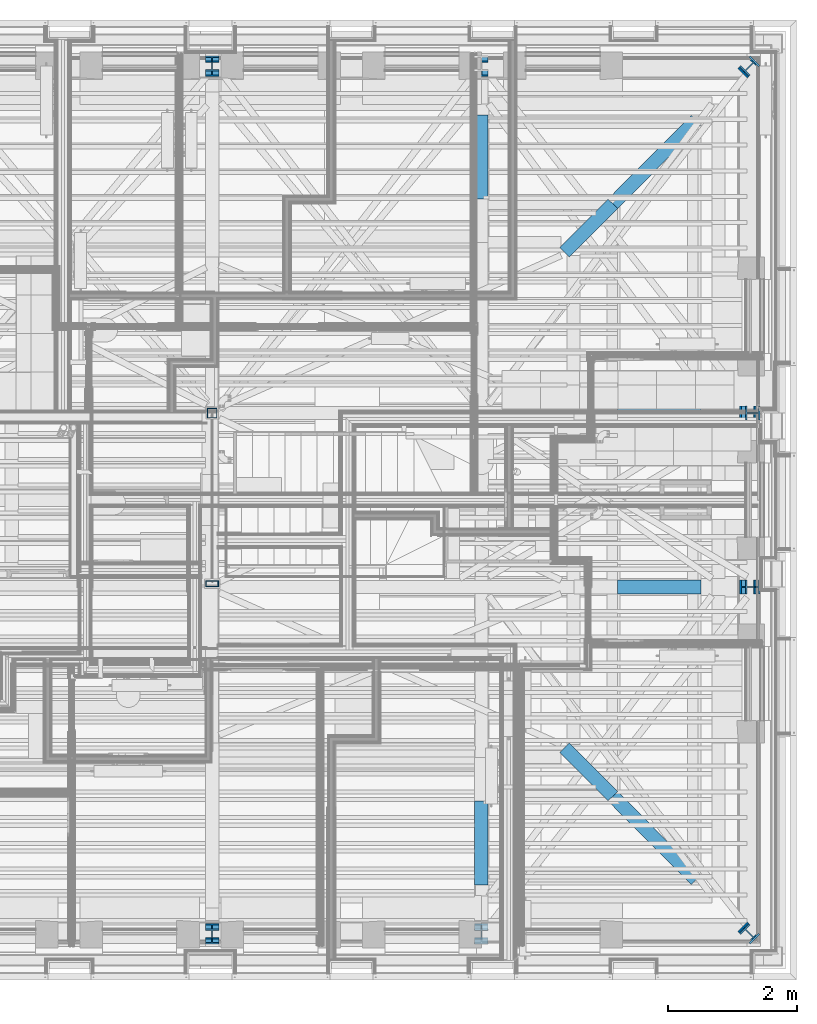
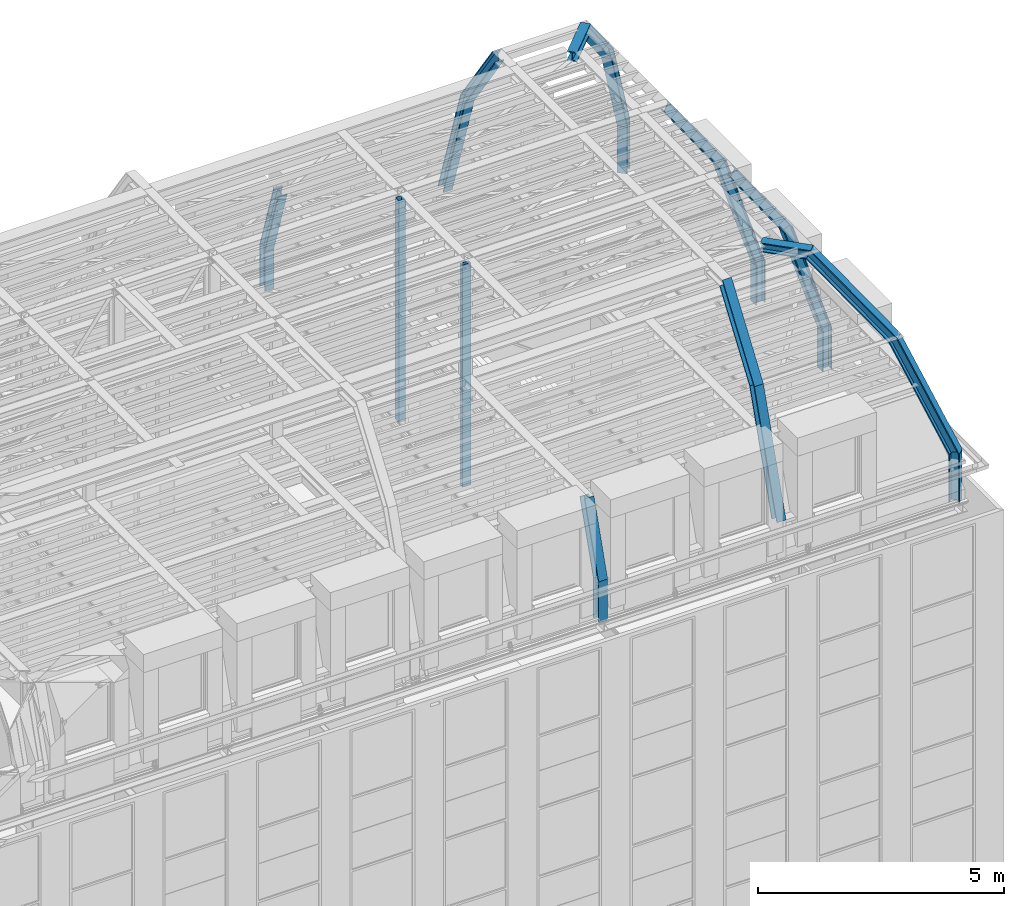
# One storey, part 2 of 183: 24 columns.
"""IFC2X3 building model written with IfcOpenShell, lengths in metres."""

from ifc_helpers import new_model, entity, si_unit, converted_unit, derived_unit, money_unit, direction, frame, origin_with_axes, place, context, subcontext, project, spatial, polyline, outline, extrude, clip, halfspace, material, type_object, element, save


model = new_model("IFC2X3")

# Units and contexts
model_context = context("Model", 3, precision=1e-05, world=origin_with_axes(), true_north=direction((0.0, 1.0)))
body_context = subcontext(model_context, "Body", "Model", "MODEL_VIEW", scale=1.0)
ifc_project = project(units=[si_unit("LENGTHUNIT", "METRE"), si_unit("AREAUNIT", "SQUARE_METRE"), si_unit("VOLUMEUNIT", "CUBIC_METRE"), si_unit("ABSORBEDDOSEUNIT", "GRAY"), si_unit("AMOUNTOFSUBSTANCEUNIT", "MOLE"), si_unit("DOSEEQUIVALENTUNIT", "SIEVERT"), si_unit("ELECTRICCAPACITANCEUNIT", "FARAD"), si_unit("ELECTRICCHARGEUNIT", "COULOMB"), si_unit("ELECTRICCONDUCTANCEUNIT", "SIEMENS"), si_unit("ELECTRICCURRENTUNIT", "AMPERE"), si_unit("ELECTRICRESISTANCEUNIT", "OHM"), si_unit("ELECTRICVOLTAGEUNIT", "VOLT"), si_unit("ENERGYUNIT", "JOULE"), si_unit("FORCEUNIT", "NEWTON"), si_unit("FREQUENCYUNIT", "HERTZ"), si_unit("ILLUMINANCEUNIT", "LUX"), si_unit("INDUCTANCEUNIT", "HENRY"), si_unit("LUMINOUSFLUXUNIT", "LUMEN"), si_unit("LUMINOUSINTENSITYUNIT", "CANDELA"), si_unit("MAGNETICFLUXDENSITYUNIT", "TESLA"), si_unit("MAGNETICFLUXUNIT", "WEBER"), si_unit("MASSUNIT", "GRAM"), converted_unit("PLANEANGLEUNIT", "degree", entity("IfcReal", 0.0174532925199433), si_unit("PLANEANGLEUNIT", "RADIAN"), dimensions=[0, 0, 0, 0, 0, 0, 0]), si_unit("POWERUNIT", "WATT"), si_unit("PRESSUREUNIT", "PASCAL"), si_unit("RADIOACTIVITYUNIT", "BECQUEREL"), si_unit("SOLIDANGLEUNIT", "STERADIAN"), si_unit("THERMODYNAMICTEMPERATUREUNIT", "KELVIN"), si_unit("TIMEUNIT", "SECOND"), derived_unit("ACCELERATIONUNIT", [(si_unit("LENGTHUNIT", "METRE"), 1), (si_unit("TIMEUNIT", "SECOND"), -2)]), derived_unit("ANGULARVELOCITYUNIT", [(converted_unit("PLANEANGLEUNIT", "degree", entity("IfcReal", 0.0174532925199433), si_unit("PLANEANGLEUNIT", "RADIAN"), dimensions=[0, 0, 0, 0, 0, 0, 0]), 1), (si_unit("TIMEUNIT", "SECOND"), -1)]), derived_unit("CURVATUREUNIT", [(converted_unit("PLANEANGLEUNIT", "degree", entity("IfcReal", 0.0174532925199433), si_unit("PLANEANGLEUNIT", "RADIAN"), dimensions=[0, 0, 0, 0, 0, 0, 0]), 1), (si_unit("LENGTHUNIT", "METRE"), -1)]), derived_unit("DYNAMICVISCOSITYUNIT", [(si_unit("PRESSUREUNIT", "PASCAL"), 1), (si_unit("TIMEUNIT", "SECOND"), 1)]), derived_unit("HEATFLUXDENSITYUNIT", [(si_unit("POWERUNIT", "WATT"), 1), (si_unit("LENGTHUNIT", "METRE"), -2)]), derived_unit("HEATINGVALUEUNIT", [(si_unit("ENERGYUNIT", "JOULE"), 1), (si_unit("MASSUNIT", "GRAM"), -1)]), derived_unit("INTEGERCOUNTRATEUNIT", [(si_unit("TIMEUNIT", "SECOND"), -1)]), derived_unit("IONCONCENTRATIONUNIT", [(si_unit("MASSUNIT", "GRAM"), 1), (si_unit("VOLUMEUNIT", "CUBIC_METRE"), -1)]), derived_unit("ISOTHERMALMOISTURECAPACITYUNIT", [(si_unit("VOLUMEUNIT", "CUBIC_METRE"), 1), (si_unit("MASSUNIT", "GRAM"), -1)]), derived_unit("KINEMATICVISCOSITYUNIT", [(si_unit("AREAUNIT", "SQUARE_METRE"), 1), (si_unit("TIMEUNIT", "SECOND"), -1)]), derived_unit("LINEARFORCEUNIT", [(si_unit("FORCEUNIT", "NEWTON"), 1), (si_unit("LENGTHUNIT", "METRE"), -1)]), derived_unit("LINEARMOMENTUNIT", [(si_unit("FORCEUNIT", "NEWTON"), 1), (si_unit("LENGTHUNIT", "METRE"), -1)]), derived_unit("LINEARSTIFFNESSUNIT", [(si_unit("FORCEUNIT", "NEWTON"), 1), (si_unit("LENGTHUNIT", "METRE"), -1)]), derived_unit("LINEARVELOCITYUNIT", [(si_unit("LENGTHUNIT", "METRE"), 1), (si_unit("TIMEUNIT", "SECOND"), -1)]), derived_unit("LUMINOUSINTENSITYDISTRIBUTIONUNIT", [(si_unit("LUMINOUSINTENSITYUNIT", "CANDELA"), 1), (si_unit("LUMINOUSFLUXUNIT", "LUMEN"), -1)]), derived_unit("MASSDENSITYUNIT", [(si_unit("MASSUNIT", "GRAM"), 1), (si_unit("VOLUMEUNIT", "CUBIC_METRE"), -1)]), derived_unit("MASSFLOWRATEUNIT", [(si_unit("MASSUNIT", "GRAM"), 1), (si_unit("TIMEUNIT", "SECOND"), -1)]), derived_unit("MASSPERLENGTHUNIT", [(si_unit("MASSUNIT", "GRAM"), 1), (si_unit("LENGTHUNIT", "METRE"), -1)]), derived_unit("MODULUSOFELASTICITYUNIT", [(si_unit("FORCEUNIT", "NEWTON"), 1), (si_unit("AREAUNIT", "SQUARE_METRE"), -1)]), derived_unit("MODULUSOFLINEARSUBGRADEREACTIONUNIT", [(si_unit("FORCEUNIT", "NEWTON"), 1), (si_unit("LENGTHUNIT", "METRE"), -2)]), derived_unit("MODULUSOFROTATIONALSUBGRADEREACTIONUNIT", [(si_unit("FORCEUNIT", "NEWTON"), 1), (si_unit("LENGTHUNIT", "METRE"), 1)]), derived_unit("MODULUSOFSUBGRADEREACTIONUNIT", [(si_unit("FORCEUNIT", "NEWTON"), 1), (si_unit("VOLUMEUNIT", "CUBIC_METRE"), -1)]), derived_unit("MOISTUREDIFFUSIVITYUNIT", [(si_unit("VOLUMEUNIT", "CUBIC_METRE"), 1), (si_unit("TIMEUNIT", "SECOND"), -1)]), derived_unit("MOLECULARWEIGHTUNIT", [(si_unit("MASSUNIT", "GRAM"), 1), (si_unit("AMOUNTOFSUBSTANCEUNIT", "MOLE"), -1)]), derived_unit("PLANARFORCEUNIT", [(si_unit("FORCEUNIT", "NEWTON"), 1), (si_unit("LENGTHUNIT", "METRE"), -2)]), derived_unit("ROTATIONALFREQUENCYUNIT", [(si_unit("TIMEUNIT", "SECOND"), -1)]), derived_unit("ROTATIONALMASSUNIT", [(si_unit("MASSUNIT", "GRAM"), 1), (si_unit("LENGTHUNIT", "METRE"), 2)]), derived_unit("ROTATIONALSTIFFNESSUNIT", [(si_unit("FORCEUNIT", "NEWTON"), 1), (si_unit("LENGTHUNIT", "METRE"), 1), (converted_unit("PLANEANGLEUNIT", "degree", entity("IfcReal", 0.0174532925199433), si_unit("PLANEANGLEUNIT", "RADIAN"), dimensions=[0, 0, 0, 0, 0, 0, 0]), -1)]), derived_unit("SECTIONAREAINTEGRALUNIT", [(si_unit("LENGTHUNIT", "METRE"), 5)]), derived_unit("SECTIONMODULUSUNIT", [(si_unit("LENGTHUNIT", "METRE"), 3)]), derived_unit("SHEARMODULUSUNIT", [(si_unit("FORCEUNIT", "NEWTON"), 1), (si_unit("AREAUNIT", "SQUARE_METRE"), -1)]), derived_unit("SOUNDPOWERUNIT", [(si_unit("ENERGYUNIT", "JOULE"), 1), (si_unit("TIMEUNIT", "SECOND"), -1)]), derived_unit("SPECIFICHEATCAPACITYUNIT", [(si_unit("FORCEUNIT", "NEWTON"), 1), (si_unit("MASSUNIT", "GRAM"), -1), (si_unit("THERMODYNAMICTEMPERATUREUNIT", "KELVIN"), -1)]), derived_unit("TEMPERATUREGRADIENTUNIT", [(si_unit("THERMODYNAMICTEMPERATUREUNIT", "KELVIN"), 1), (si_unit("LENGTHUNIT", "METRE"), -1)]), derived_unit("THERMALADMITTANCEUNIT", [(si_unit("POWERUNIT", "WATT"), 1), (si_unit("AREAUNIT", "SQUARE_METRE"), -1), (si_unit("THERMODYNAMICTEMPERATUREUNIT", "KELVIN"), -1)]), derived_unit("THERMALCONDUCTANCEUNIT", [(si_unit("POWERUNIT", "WATT"), 1), (si_unit("LENGTHUNIT", "METRE"), -1), (si_unit("THERMODYNAMICTEMPERATUREUNIT", "KELVIN"), -1)]), derived_unit("THERMALEXPANSIONCOEFFICIENTUNIT", [(si_unit("THERMODYNAMICTEMPERATUREUNIT", "KELVIN"), -1)]), derived_unit("THERMALRESISTANCEUNIT", [(si_unit("AREAUNIT", "SQUARE_METRE"), 1), (si_unit("POWERUNIT", "WATT"), -1)]), derived_unit("THERMALTRANSMITTANCEUNIT", [(si_unit("POWERUNIT", "WATT"), 1), (si_unit("AREAUNIT", "SQUARE_METRE"), -1), (si_unit("THERMODYNAMICTEMPERATUREUNIT", "KELVIN"), -1)]), derived_unit("TORQUEUNIT", [(si_unit("FORCEUNIT", "NEWTON"), 1), (si_unit("LENGTHUNIT", "METRE"), 1)]), derived_unit("VAPORPERMEABILITYUNIT", [(si_unit("MASSUNIT", "GRAM"), 1), (si_unit("TIMEUNIT", "SECOND"), -1)]), derived_unit("VOLUMETRICFLOWRATEUNIT", [(si_unit("VOLUMEUNIT", "CUBIC_METRE"), 1), (si_unit("TIMEUNIT", "SECOND"), -1)]), derived_unit("WARPINGCONSTANTUNIT", [(si_unit("LENGTHUNIT", "METRE"), 6)]), derived_unit("WARPINGMOMENTUNIT", [(si_unit("FORCEUNIT", "NEWTON"), 1), (si_unit("LENGTHUNIT", "METRE"), 2)]), money_unit("GBP")], contexts=[model_context])

# Site, building, storey
site_placement = place(None, origin_with_axes())
site = spatial("IfcSite", under=ifc_project, at=site_placement, Name="Site", CompositionType="ELEMENT")
building_placement = place(site_placement, origin_with_axes())
building = spatial("IfcBuilding", under=site, at=building_placement, Name="Building01", CompositionType="ELEMENT")
storey_placement = place(building_placement, frame((0.0, 0.0, 5.15), z_axis=(0.0, 0.0, 1.0), x_axis=(1.0, 0.0, 0.0)))
storey = spatial("IfcBuildingStorey", under=building, at=storey_placement, Name="1F", CompositionType="ELEMENT", Elevation=5.15)

# Columns
ifc_material = material(Name="A_BSUK_Columns_Steel")
column_type = type_object("IfcColumnType", Name="A-Columns-Steel", PredefinedType="COLUMN")
column_1_placement = place(storey_placement, frame((17.91, 8.8, 9.73), z_axis=(0.0, 0.0, 1.0), x_axis=(-1.0, 0.0, 0.0)))
element("IfcColumn", 1, at=column_1_placement, inside=storey, type_object=column_type, material=ifc_material, Name="SHS150a", ObjectType="A-Columns-Steel", context=body_context, shape_type="SweptSolid", body=[
    extrude(outline(polyline([(0.075, 0.075), (0.075, -0.075), (-0.075, -0.075), (-0.075, 0.075), (0.075, 0.075)]), holes=[polyline([(0.07, 0.07), (-0.07, 0.07), (-0.07, -0.07), (0.07, -0.07), (0.07, 0.07)])]), origin_with_axes(), (0.0, 0.0, 1.0), 5.497),
])
column_2_placement = place(storey_placement, frame((17.91, 6.15, 9.73), z_axis=(0.0, 0.0, 1.0), x_axis=(-1.0, 0.0, 0.0)))
element("IfcColumn", 2, at=column_2_placement, inside=storey, type_object=column_type, material=ifc_material, Name="RHS200h", ObjectType="A-Columns-Steel", context=body_context, shape_type="SweptSolid", body=[
    extrude(outline(polyline([(-0.1, 0.05), (0.1, 0.05), (0.1, -0.05), (-0.1, -0.05), (-0.1, 0.05)]), holes=[polyline([(-0.09, 0.04), (-0.09, -0.04), (0.09, -0.04), (0.09, 0.04), (-0.09, 0.04)])]), origin_with_axes(), (0.0, 0.0, 1.0), 5.497),
])
column_3_placement = place(storey_placement, frame((22.19515, 0.778712, 10.678289), z_axis=(0.0, 0.30901699, 0.95105652), x_axis=(-1.0, 0.0, 0.0)))
element("IfcColumn", 3, at=column_3_placement, inside=storey, type_object=column_type, material=ifc_material, Name="UC203f", ObjectType="A-Columns-Steel", context=body_context, shape_type="Clipping", body=[
    clip(clip(extrude(outline(polyline([(0.2103, 0.0), (0.2103, 0.0237), (0.1124, 0.0237), (0.1124, 0.2049), (0.2103, 0.2049), (0.2103, 0.2286), (0.0, 0.2286), (0.0, 0.2049), (0.0979, 0.2049), (0.0979, 0.0237), (0.0, 0.0237), (0.0, 0.0), (0.2103, 0.0)])), origin_with_axes(), (0.0, 0.0, 1.0), 2.964323), halfspace(frame((0.0, 0.005594, 0.035321), z_axis=(0.0, 0.15643447, 0.98768834), x_axis=(1.0, 0.0, 0.0)), True)), halfspace(frame((0.0, -0.428348, 2.866142), z_axis=(0.0, 0.14780941, -0.98901586), x_axis=(-1.0, 0.0, 0.0)), True)),
])
column_4_placement = place(storey_placement, frame((17.80485, 0.5613, 9.73), z_axis=(0.0, 0.0, 1.0), x_axis=(1.0, 0.0, 0.0)))
element("IfcColumn", 4, at=column_4_placement, inside=storey, type_object=column_type, material=ifc_material, Name="UC203f", ObjectType="A-Columns-Steel", context=body_context, shape_type="Clipping", body=[
    clip(extrude(outline(polyline([(0.2103, 0.0), (0.2103, 0.0237), (0.1124, 0.0237), (0.1124, 0.2049), (0.2103, 0.2049), (0.2103, 0.2286), (0.0, 0.2286), (0.0, 0.2049), (0.0979, 0.2049), (0.0979, 0.0237), (0.0, 0.0237), (0.0, 0.0), (0.2103, 0.0)])), origin_with_axes(), (0.0, 0.0, 1.0), 1.018931), halfspace(frame((0.0, 0.157433, 0.993996), z_axis=(0.0, -0.15643447, -0.98768834), x_axis=(-1.0, 0.0, 0.0)), True)),
])
column_5_placement = place(storey_placement, frame((18.01515, 0.778712, 10.678289), z_axis=(0.0, 0.30901699, 0.95105652), x_axis=(-1.0, 0.0, 0.0)))
element("IfcColumn", 5, at=column_5_placement, inside=storey, type_object=column_type, material=ifc_material, Name="UC203f", ObjectType="A-Columns-Steel", context=body_context, shape_type="Clipping", body=[
    clip(clip(extrude(outline(polyline([(0.2103, 0.0), (0.2103, 0.0237), (0.1124, 0.0237), (0.1124, 0.2049), (0.2103, 0.2049), (0.2103, 0.2286), (0.0, 0.2286), (0.0, 0.2049), (0.0979, 0.2049), (0.0979, 0.0237), (0.0, 0.0237), (0.0, 0.0), (0.2103, 0.0)])), origin_with_axes(), (0.0, 0.0, 1.0), 1.806986), halfspace(frame((0.0, 0.005594, 0.035321), z_axis=(0.0, 0.15643447, 0.98768834), x_axis=(1.0, 0.0, 0.0)), True)), halfspace(frame((0.0, -0.428348, 2.866142), z_axis=(0.0, 0.14780941, -0.98901586), x_axis=(-1.0, 0.0, 0.0)), True)),
])
column_6_placement = place(storey_placement, frame((26.4136, 8.69485, 9.73), z_axis=(0.0, 0.0, 1.0), x_axis=(0.0, 1.0, 0.0)))
element("IfcColumn", 6, at=column_6_placement, inside=storey, type_object=column_type, material=ifc_material, Name="UC203f", ObjectType="A-Columns-Steel", context=body_context, shape_type="Clipping", body=[
    clip(extrude(outline(polyline([(0.2103, 0.0), (0.2103, 0.0237), (0.1124, 0.0237), (0.1124, 0.2049), (0.2103, 0.2049), (0.2103, 0.2286), (0.0, 0.2286), (0.0, 0.2049), (0.0979, 0.2049), (0.0979, 0.0237), (0.0, 0.0237), (0.0, 0.0), (0.2103, 0.0)])), origin_with_axes(), (0.0, 0.0, 1.0), 1.018931), halfspace(frame((0.0, 0.157433, 0.993996), z_axis=(0.0, -0.15643447, -0.98768834), x_axis=(-1.0, 0.0, 0.0)), True)),
])
column_7_placement = place(storey_placement, frame((26.196188, 8.90515, 10.678289), z_axis=(-0.30901699, 0.0, 0.95105652), x_axis=(0.0, -1.0, 0.0)))
element("IfcColumn", 7, at=column_7_placement, inside=storey, type_object=column_type, material=ifc_material, Name="UC203f", ObjectType="A-Columns-Steel", context=body_context, shape_type="Clipping", body=[
    clip(clip(extrude(outline(polyline([(0.2103, 0.0), (0.2103, 0.0237), (0.1124, 0.0237), (0.1124, 0.2049), (0.2103, 0.2049), (0.2103, 0.2286), (0.0, 0.2286), (0.0, 0.2049), (0.0979, 0.2049), (0.0979, 0.0237), (0.0, 0.0237), (0.0, 0.0), (0.2103, 0.0)])), origin_with_axes(), (0.0, 0.0, 1.0), 2.964323), halfspace(frame((0.0, 0.005594, 0.035321), z_axis=(0.0, 0.15643447, 0.98768834), x_axis=(1.0, 0.0, 0.0)), True)), halfspace(frame((0.0, -0.428348, 2.866142), z_axis=(0.0, 0.14780941, -0.98901586), x_axis=(-1.0, 0.0, 0.0)), True)),
])
for number, where, z_axis, x_axis, name in (
    (8, (25.310316, 8.90515, 13.43705), (-0.57357644, 0.0, 0.81915204), (0.0, -1.0, 0.0), "UC203f"),
    (9, (25.310316, 6.20515, 13.43705), (-0.57357644, 0.0, 0.81915204), (0.0, -1.0, 0.0), "UC203f"),
):
    element("IfcColumn", number, at=place(storey_placement, frame(where, z_axis=z_axis, x_axis=x_axis)), inside=storey, type_object=column_type, material=ifc_material, Name=name, ObjectType="A-Columns-Steel", context=body_context, shape_type="Clipping", body=[
        clip(clip(extrude(outline(polyline([(0.2103, 0.0), (0.2103, 0.0237), (0.1124, 0.0237), (0.1124, 0.2049), (0.2103, 0.2049), (0.2103, 0.2286), (0.0, 0.2286), (0.0, 0.2049), (0.0979, 0.2049), (0.0979, 0.0237), (0.0, 0.0237), (0.0, 0.0), (0.2103, 0.0)])), origin_with_axes(), (0.0, 0.0, 1.0), 2.265062), halfspace(frame((0.0, -0.878975, 1.688495), z_axis=(0.0, 0.46174861, -0.88701083), x_axis=(-1.0, 0.0, 0.0)), True)), halfspace(frame((0.0, 0.004994, 0.033418), z_axis=(0.0, 0.14780941, 0.98901586), x_axis=(1.0, 0.0, 0.0)), True)),
    ])
column_8_placement = place(storey_placement, frame((26.196188, 6.20515, 10.678289), z_axis=(-0.30901699, 0.0, 0.95105652), x_axis=(0.0, -1.0, 0.0)))
element("IfcColumn", 10, at=column_8_placement, inside=storey, type_object=column_type, material=ifc_material, Name="UC203f", ObjectType="A-Columns-Steel", context=body_context, shape_type="Clipping", body=[
    clip(clip(extrude(outline(polyline([(0.2103, 0.0), (0.2103, 0.0237), (0.1124, 0.0237), (0.1124, 0.2049), (0.2103, 0.2049), (0.2103, 0.2286), (0.0, 0.2286), (0.0, 0.2049), (0.0979, 0.2049), (0.0979, 0.0237), (0.0, 0.0237), (0.0, 0.0), (0.2103, 0.0)])), origin_with_axes(), (0.0, 0.0, 1.0), 2.964323), halfspace(frame((0.0, 0.005594, 0.035321), z_axis=(0.0, 0.15643447, 0.98768834), x_axis=(1.0, 0.0, 0.0)), True)), halfspace(frame((0.0, -0.428348, 2.866142), z_axis=(0.0, 0.14780941, -0.98901586), x_axis=(-1.0, 0.0, 0.0)), True)),
])
column_9_placement = place(storey_placement, frame((26.4136, 5.99485, 9.73), z_axis=(0.0, 0.0, 1.0), x_axis=(0.0, 1.0, 0.0)))
element("IfcColumn", 11, at=column_9_placement, inside=storey, type_object=column_type, material=ifc_material, Name="UC203f", ObjectType="A-Columns-Steel", context=body_context, shape_type="Clipping", body=[
    clip(extrude(outline(polyline([(0.2103, 0.0), (0.2103, 0.0237), (0.1124, 0.0237), (0.1124, 0.2049), (0.2103, 0.2049), (0.2103, 0.2286), (0.0, 0.2286), (0.0, 0.2049), (0.0979, 0.2049), (0.0979, 0.0237), (0.0, 0.0237), (0.0, 0.0), (0.2103, 0.0)])), origin_with_axes(), (0.0, 0.0, 1.0), 1.018931), halfspace(frame((0.0, 0.157433, 0.993996), z_axis=(0.0, -0.15643447, -0.98768834), x_axis=(-1.0, 0.0, 0.0)), True)),
])
column_10_placement = place(storey_placement, frame((26.264725, 0.854328, 10.844514), z_axis=(-0.31231518, 0.3140018, 0.89658357), x_axis=(-0.70900839, -0.70520005, 0.0)))
element("IfcColumn", 12, at=column_10_placement, inside=storey, type_object=column_type, material=ifc_material, Name="UC203f", ObjectType="A-Columns-Steel", context=body_context, shape_type="Clipping", body=[
    clip(clip(clip(extrude(outline(polyline([(0.2103, 0.0), (0.2103, 0.0237), (0.1124, 0.0237), (0.1124, 0.2049), (0.2103, 0.2049), (0.2103, 0.2286), (0.0, 0.2286), (0.0, 0.2049), (0.0979, 0.2049), (0.0979, 0.0237), (0.0, 0.0237), (0.0, 0.0), (0.2103, 0.0)])), origin_with_axes(), (0.0, 0.0, 1.0), 2.936133), halfspace(frame((0.0, 0.01182, 0.050621), z_axis=(0.0, 0.2273944, 0.97380274), x_axis=(1.0, 0.0, 0.0)), True)), halfspace(frame((0.0, -0.458485, 2.824607), z_axis=(0.0, 0.16022129, -0.98708112), x_axis=(-1.0, 0.0, 0.0)), True)), halfspace(frame((0.0, 0.01182, 0.050621), z_axis=(0.0, 0.2273944, 0.97380274), x_axis=(1.0, 0.0, 0.0)), True)),
])
column_11_placement = place(storey_placement, frame((26.260158, 0.560707, 9.73), z_axis=(0.0, 0.0, 1.0), x_axis=(0.70900839, 0.70520005, 0.0)))
element("IfcColumn", 13, at=column_11_placement, inside=storey, type_object=column_type, material=ifc_material, Name="UC203f", ObjectType="A-Columns-Steel", context=body_context, shape_type="Clipping", body=[
    clip(extrude(outline(polyline([(0.2103, 0.0), (0.2103, 0.0237), (0.1124, 0.0237), (0.1124, 0.2049), (0.2103, 0.2049), (0.2103, 0.2286), (0.0, 0.2286), (0.0, 0.2049), (0.0979, 0.2049), (0.0979, 0.0237), (0.0, 0.0237), (0.0, 0.0), (0.2103, 0.0)])), origin_with_axes(), (0.0, 0.0, 1.0), 1.215755), halfspace(frame((0.0, 0.269213, 1.15289), z_axis=(0.0, -0.2273944, -0.97380274), x_axis=(-1.0, 0.0, 0.0)), True)),
])
column_12_placement = place(storey_placement, frame((25.37773, 1.746114, 13.417371), z_axis=(-0.49626941, 0.49894945, 0.71046894), x_axis=(-0.70900839, -0.70520005, 0.0)))
element("IfcColumn", 14, at=column_12_placement, inside=storey, type_object=column_type, material=ifc_material, Name="UC203f", ObjectType="A-Columns-Steel", context=body_context, shape_type="Clipping", body=[
    clip(clip(extrude(outline(polyline([(0.2103, 0.0), (0.2103, 0.0237), (0.1124, 0.0237), (0.1124, 0.2049), (0.2103, 0.2049), (0.2103, 0.2286), (0.0, 0.2286), (0.0, 0.2049), (0.0979, 0.2049), (0.0979, 0.0237), (0.0, 0.0237), (0.0, 0.0), (0.2103, 0.0)])), origin_with_axes(), (0.0, 0.0, 1.0), 2.597378), halfspace(frame((0.0, 0.005868, 0.036153), z_axis=(0.0, 0.16022129, 0.98708112), x_axis=(1.0, 0.0, 0.0)), True)), halfspace(frame((0.0, -0.888814, 2.131407), z_axis=(0.0, 0.38488404, -0.92296494), x_axis=(-1.0, 0.0, 0.0)), True)),
])
column_13_placement = place(storey_placement, frame((24.05416, 2.778618, 15.4236), z_axis=(-0.70520005, 0.70900839, 0.0), x_axis=(0.70900839, 0.70520005, 0.0)))
element("IfcColumn", 15, at=column_13_placement, inside=storey, type_object=column_type, material=ifc_material, Name="UC203f", ObjectType="A-Columns-Steel", context=body_context, shape_type="Clipping", body=[
    clip(extrude(outline(polyline([(0.2103, 0.0), (0.2103, 0.0237), (0.1124, 0.0237), (0.1124, 0.2049), (0.2103, 0.2049), (0.2103, 0.2286), (0.0, 0.2286), (0.0, 0.2049), (0.0979, 0.2049), (0.0979, 0.0237), (0.0, 0.0237), (0.0, 0.0), (0.2103, 0.0)])), origin_with_axes(), (0.0, 0.0, 1.0), 1.062331), halfspace(frame((0.0, 0.0, 0.0), z_axis=(0.0, -0.38488404, 0.92296494), x_axis=(1.0, 0.0, 0.0)), True)),
])
column_14_placement = place(storey_placement, frame((22.19515, 1.664642, 13.437133), z_axis=(0.0, 0.57351196, 0.81919719), x_axis=(-1.0, 0.0, 0.0)))
element("IfcColumn", 16, at=column_14_placement, inside=storey, type_object=column_type, material=ifc_material, Name="UC203f", ObjectType="A-Columns-Steel", context=body_context, shape_type="Clipping", body=[
    clip(clip(clip(extrude(outline(polyline([(0.2103, 0.0), (0.2103, 0.0237), (0.1124, 0.0237), (0.1124, 0.2049), (0.2103, 0.2049), (0.2103, 0.2286), (0.0, 0.2286), (0.0, 0.2049), (0.0979, 0.2049), (0.0979, 0.0237), (0.0, 0.0237), (0.0, 0.0), (0.2103, 0.0)])), origin_with_axes(), (0.0, 0.0, 1.0), 2.264855), halfspace(frame((0.0, -0.878934, 1.688254), z_axis=(0.0, 0.46178352, -0.88699266), x_axis=(-1.0, 0.0, 0.0)), True)), halfspace(frame((0.0, -0.878934, 1.688254), z_axis=(0.0, 0.46178352, -0.88699266), x_axis=(-1.0, 0.0, 0.0)), True)), halfspace(frame((0.0, 0.005868, 0.036153), z_axis=(0.0, 0.16022129, 0.98708112), x_axis=(1.0, 0.0, 0.0)), True)),
])
column_15_placement = place(storey_placement, frame((17.80485, 14.3387, 10.748931), z_axis=(0.0, 0.0, -1.0), x_axis=(0.0, -1.0, 0.0)))
element("IfcColumn", 17, at=column_15_placement, inside=storey, type_object=column_type, material=ifc_material, Name="A2", ObjectType="A-Columns-Steel", context=body_context, shape_type="Clipping", body=[
    clip(extrude(outline(polyline([(0.0237, 0.0), (0.0237, -0.0979), (0.2049, -0.0979), (0.2049, 0.0), (0.2286, 0.0), (0.2286, -0.2103), (0.2049, -0.2103), (0.2049, -0.1124), (0.0237, -0.1124), (0.0237, -0.2103), (0.0, -0.2103), (0.0, 0.0), (0.0237, 0.0)])), origin_with_axes(), (0.0, 0.0, 1.0), 1.018931), halfspace(frame((0.0, 0.0, 0.0), z_axis=(-0.15643447, 0.0, 0.98768834), x_axis=(0.98768834, 0.0, 0.15643447)), True)),
])
column_16_placement = place(storey_placement, frame((18.01515, 13.563034, 12.39642), z_axis=(0.0, 0.30901699, -0.95105652), x_axis=(0.0, 0.95105652, 0.30901699)))
element("IfcColumn", 18, at=column_16_placement, inside=storey, type_object=column_type, material=ifc_material, Name="A2", ObjectType="A-Columns-Steel", context=body_context, shape_type="Clipping", body=[
    clip(clip(extrude(outline(polyline([(0.0237, 0.0), (0.0237, -0.0979), (0.2049, -0.0979), (0.2049, 0.0), (0.2286, 0.0), (0.2286, -0.2103), (0.2049, -0.2103), (0.2049, -0.1124), (0.0237, -0.1124), (0.0237, -0.2103), (0.0, -0.2103), (0.0, 0.0), (0.0237, 0.0)])), origin_with_axes(), (0.0, 0.0, 1.0), 1.80655), halfspace(frame((-0.273533, 0.0, 1.72702), z_axis=(0.15643447, 0.0, -0.98768834), x_axis=(-0.98768834, 0.0, -0.15643447)), True)), halfspace(frame((-0.164256, 0.0, -1.099061), z_axis=(0.14780941, 0.0, 0.98901586), x_axis=(0.98901586, 0.0, -0.14780941)), True)),
])
column_17_placement = place(storey_placement, frame((22.19515, 13.205262, 13.497528), z_axis=(0.0, 0.30901699, -0.95105652), x_axis=(0.0, 0.95105652, 0.30901699)))
element("IfcColumn", 19, at=column_17_placement, inside=storey, type_object=column_type, material=ifc_material, Name="A2", ObjectType="A-Columns-Steel", context=body_context, shape_type="Clipping", body=[
    clip(clip(extrude(outline(polyline([(0.0237, 0.0), (0.0237, -0.0979), (0.2049, -0.0979), (0.2049, 0.0), (0.2286, 0.0), (0.2286, -0.2103), (0.2049, -0.2103), (0.2049, -0.1124), (0.0237, -0.1124), (0.0237, -0.2103), (0.0, -0.2103), (0.0, 0.0), (0.0237, 0.0)])), origin_with_axes(), (0.0, 0.0, 1.0), 2.964323), halfspace(frame((-0.452419, 0.0, 2.85646), z_axis=(0.15643447, 0.0, -0.98768834), x_axis=(-0.98768834, 0.0, -0.15643447)), True)), halfspace(frame((0.004994, 0.0, 0.033418), z_axis=(0.14780941, 0.0, 0.98901586), x_axis=(0.98901586, 0.0, -0.14780941)), True)),
])
column_18_placement = place(storey_placement, frame((26.260158, 14.339293, 10.945755), z_axis=(0.0, 0.0, -1.0), x_axis=(-0.70520005, -0.70900839, 0.0)))
element("IfcColumn", 20, at=column_18_placement, inside=storey, type_object=column_type, material=ifc_material, Name="A2", ObjectType="A-Columns-Steel", context=body_context, shape_type="Clipping", body=[
    clip(extrude(outline(polyline([(0.0237, 0.0), (0.0237, -0.0979), (0.2049, -0.0979), (0.2049, 0.0), (0.2286, 0.0), (0.2286, -0.2103), (0.2049, -0.2103), (0.2049, -0.1124), (0.0237, -0.1124), (0.0237, -0.2103), (0.0, -0.2103), (0.0, 0.0), (0.0237, 0.0)])), origin_with_axes(), (0.0, 0.0, 1.0), 1.215755), halfspace(frame((0.0, 0.0, 0.0), z_axis=(-0.2273944, 0.0, 0.97380274), x_axis=(0.97380274, 0.0, 0.2273944)), True)),
])
column_19_placement = place(storey_placement, frame((25.347726, 13.123721, 13.477003), z_axis=(0.31231518, 0.3140018, -0.89658357), x_axis=(0.63227078, 0.63568527, 0.44287459)))
element("IfcColumn", 21, at=column_19_placement, inside=storey, type_object=column_type, material=ifc_material, Name="A2", ObjectType="A-Columns-Steel", context=body_context, shape_type="Clipping", body=[
    clip(clip(clip(extrude(outline(polyline([(0.0237, 0.0), (0.0237, -0.0979), (0.2049, -0.0979), (0.2049, 0.0), (0.2286, 0.0), (0.2286, -0.2103), (0.2049, -0.2103), (0.2049, -0.1124), (0.0237, -0.1124), (0.0237, -0.2103), (0.0, -0.2103), (0.0, 0.0), (0.0237, 0.0)])), origin_with_axes(), (0.0, 0.0, 1.0), 2.936133), halfspace(frame((0.005868, 0.0, 0.036153), z_axis=(0.16022129, 0.0, 0.98708112), x_axis=(0.98708112, 0.0, -0.16022129)), True)), halfspace(frame((-0.638349, 0.0, 2.73369), z_axis=(0.2273944, 0.0, -0.97380274), x_axis=(-0.97380274, 0.0, -0.2273944)), True)), halfspace(frame((-0.638349, 0.0, 2.73369), z_axis=(0.2273944, 0.0, -0.97380274), x_axis=(-0.97380274, 0.0, -0.2273944)), True)),
])
column_20_placement = place(storey_placement, frame((24.088731, 11.857926, 15.262728), z_axis=(0.49626941, 0.49894945, -0.71046894), x_axis=(0.50102273, 0.50372844, 0.70372855)))
element("IfcColumn", 22, at=column_20_placement, inside=storey, type_object=column_type, material=ifc_material, Name="A2", ObjectType="A-Columns-Steel", context=body_context, shape_type="Clipping", body=[
    clip(clip(extrude(outline(polyline([(0.0237, 0.0), (0.0237, -0.0979), (0.2049, -0.0979), (0.2049, 0.0), (0.2286, 0.0), (0.2286, -0.2103), (0.2049, -0.2103), (0.2049, -0.1124), (0.0237, -0.1124), (0.0237, -0.2103), (0.0, -0.2103), (0.0, 0.0), (0.0237, 0.0)])), origin_with_axes(), (0.0, 0.0, 1.0), 2.597378), halfspace(frame((-0.404911, 0.0, 2.494547), z_axis=(0.16022129, 0.0, -0.98708112), x_axis=(-0.98708112, 0.0, -0.16022129)), True)), halfspace(frame((0.033864, 0.0, 0.081207), z_axis=(0.38488404, 0.0, 0.92296494), x_axis=(0.92296494, 0.0, -0.38488404)), True)),
])
column_21_placement = place(storey_placement, frame((23.304758, 11.367933, 15.4236), z_axis=(0.70520005, 0.70900839, 0.0), x_axis=(0.70900839, -0.70520005, 0.0)))
element("IfcColumn", 23, at=column_21_placement, inside=storey, type_object=column_type, material=ifc_material, Name="A2", ObjectType="A-Columns-Steel", context=body_context, shape_type="Clipping", body=[
    clip(extrude(outline(polyline([(0.2103, 0.0), (0.2103, 0.0237), (0.1124, 0.0237), (0.1124, 0.2049), (0.2103, 0.2049), (0.2103, 0.2286), (0.0, 0.2286), (0.0, 0.2049), (0.0979, 0.2049), (0.0979, 0.0237), (0.0, 0.0237), (0.0, 0.0), (0.2103, 0.0)])), origin_with_axes(), (0.0, 0.0, 1.0), 1.06268), halfspace(frame((0.0, 0.3775, 0.905259), z_axis=(0.0, -0.38488404, -0.92296494), x_axis=(-1.0, 0.0, 0.0)), True)),
])
column_22_placement = place(storey_placement, frame((22.19515, 9.642389, 18.569284), z_axis=(0.0, 0.57351196, -0.81919718), x_axis=(0.0, 0.81919719, 0.57351196)))
element("IfcColumn", 24, at=column_22_placement, inside=storey, type_object=column_type, material=ifc_material, Name="A2", ObjectType="A-Columns-Steel", context=body_context, shape_type="Clipping", body=[
    clip(clip(extrude(outline(polyline([(0.0237, 0.0), (0.0237, -0.0979), (0.2049, -0.0979), (0.2049, 0.0), (0.2286, 0.0), (0.2286, -0.2103), (0.2049, -0.2103), (0.2049, -0.1124), (0.0237, -0.1124), (0.0237, -0.2103), (0.0, -0.2103), (0.0, 0.0), (0.0237, 0.0)])), origin_with_axes(), (0.0, 0.0, 1.0), 6.264855), halfspace(frame((1.687142, 0.0, 3.240658), z_axis=(0.46178352, 0.0, 0.88699266), x_axis=(0.88699266, 0.0, -0.46178352)), True)), halfspace(frame((-0.984927, 0.0, 6.067877), z_axis=(0.16022129, 0.0, -0.98708112), x_axis=(-0.98708112, 0.0, -0.16022129)), True)),
])

save(model, "model.ifc")
